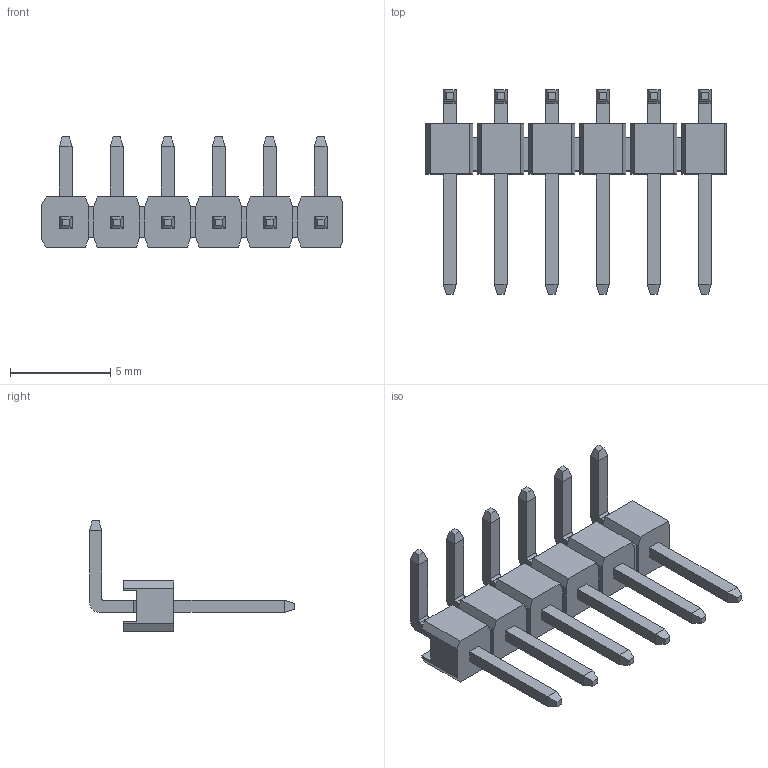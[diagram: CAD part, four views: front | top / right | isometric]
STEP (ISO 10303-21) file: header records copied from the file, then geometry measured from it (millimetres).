
FILE_DESCRIPTION (( 'STEP AP214' ), '1' );
FILE_NAME ('2011-1X06G00L-3-3-1.4B.STEP', '2020-04-30T08:59:13', ( '' ), ( '' ), 'SwSTEP 2.0', 'SolidWorks 2019', '' );
FILE_SCHEMA (( 'AUTOMOTIVE_DESIGN' ));
Length unit declared in the file: millimetre
Products named in the file (1): 2011-1X06G00L-3-3-1.4B
Bounding box: 14.99 x 10.2 x 5.5 mm (x, y, z)
Volume: 100.1 mm3; surface area: 375.5 mm2
Topology: 13 solids, 13 shells, 250 faces, 584 edges, 360 vertices
Faces by surface type: plane 238, cylinder 12
Entity records: 7030 total; most frequent: CARTESIAN_POINT 1195, ORIENTED_EDGE 1168, DIRECTION 1110, EDGE_CURVE 584, LINE 560, VECTOR 560, VERTEX_POINT 360, AXIS2_PLACEMENT_3D 275
